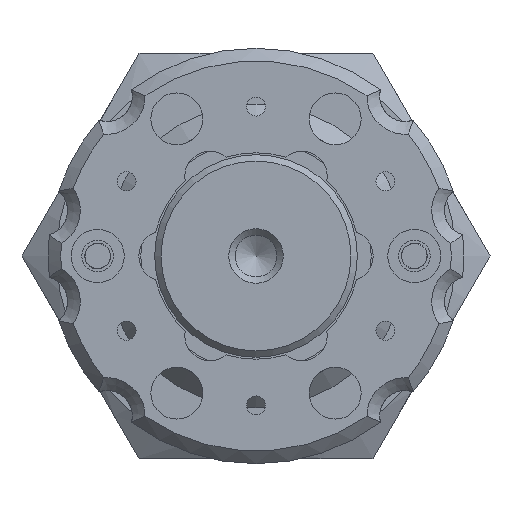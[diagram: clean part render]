
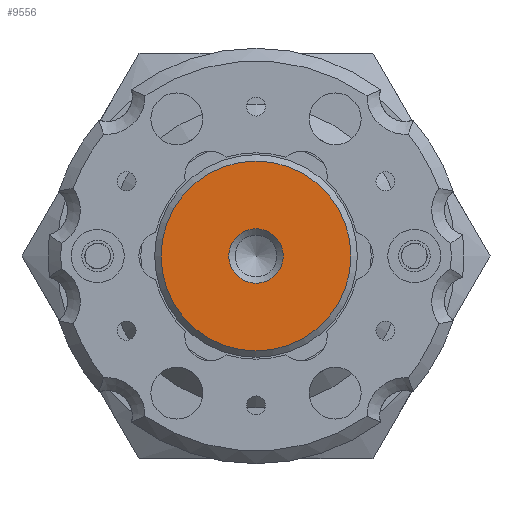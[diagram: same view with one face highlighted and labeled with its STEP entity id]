
A CAD part, front view. The second image highlights one B-rep face of the part: STEP entity #9556.
In plain terms, the highlighted planar face has unit normal (0, -1, 0) as drawn and (0, 1, 0) by its records, which use the part's own axes.
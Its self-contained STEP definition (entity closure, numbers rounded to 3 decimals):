
#252 = CARTESIAN_POINT ( 'NONE',  ( -8., 12., 0. ) ) ;
#524 = DIRECTION ( 'NONE',  ( 0., 0., -1. ) ) ;
#729 = EDGE_LOOP ( 'NONE', ( #6954 ) ) ;
#1073 = DIRECTION ( 'NONE',  ( 0., 0., -1. ) ) ;
#1329 = FACE_OUTER_BOUND ( 'NONE', #729, .T. ) ;
#2103 = CARTESIAN_POINT ( 'NONE',  ( 0., 12., -2.15 ) ) ;
#2175 = DIRECTION ( 'NONE',  ( 0., -1., 0. ) ) ;
#2211 = DIRECTION ( 'NONE',  ( 0., 0., -1. ) ) ;
#2620 = VERTEX_POINT ( 'NONE', #2103 ) ;
#3471 = EDGE_CURVE ( 'NONE', #8818, #8818, #5525, .T. ) ;
#3559 = CIRCLE ( 'NONE', #3898, 2.15 ) ;
#3898 = AXIS2_PLACEMENT_3D ( 'NONE', #7936, #2175, #2211 ) ;
#4005 = DIRECTION ( 'NONE',  ( 0., 1., 0. ) ) ;
#4690 = AXIS2_PLACEMENT_3D ( 'NONE', #252, #6043, #1073 ) ;
#5312 = EDGE_CURVE ( 'NONE', #2620, #2620, #3559, .T. ) ;
#5329 = CARTESIAN_POINT ( 'NONE',  ( 0., 12., -7.5 ) ) ;
#5525 = CIRCLE ( 'NONE', #9724, 7.5 ) ;
#5705 = ORIENTED_EDGE ( 'NONE', *, *, #5312, .T. ) ;
#5769 = EDGE_LOOP ( 'NONE', ( #5705 ) ) ;
#6043 = DIRECTION ( 'NONE',  ( 0., -1., 0. ) ) ;
#6954 = ORIENTED_EDGE ( 'NONE', *, *, #3471, .T. ) ;
#7936 = CARTESIAN_POINT ( 'NONE',  ( 0., 12., 0. ) ) ;
#7961 = FACE_BOUND ( 'NONE', #5769, .T. ) ;
#8818 = VERTEX_POINT ( 'NONE', #5329 ) ;
#9556 = ADVANCED_FACE ( 'NONE', ( #7961, #1329 ), #10146, .F. ) ;
#9724 = AXIS2_PLACEMENT_3D ( 'NONE', #10580, #4005, #524 ) ;
#10146 = PLANE ( 'NONE',  #4690 ) ;
#10580 = CARTESIAN_POINT ( 'NONE',  ( 0., 12., 0. ) ) ;
